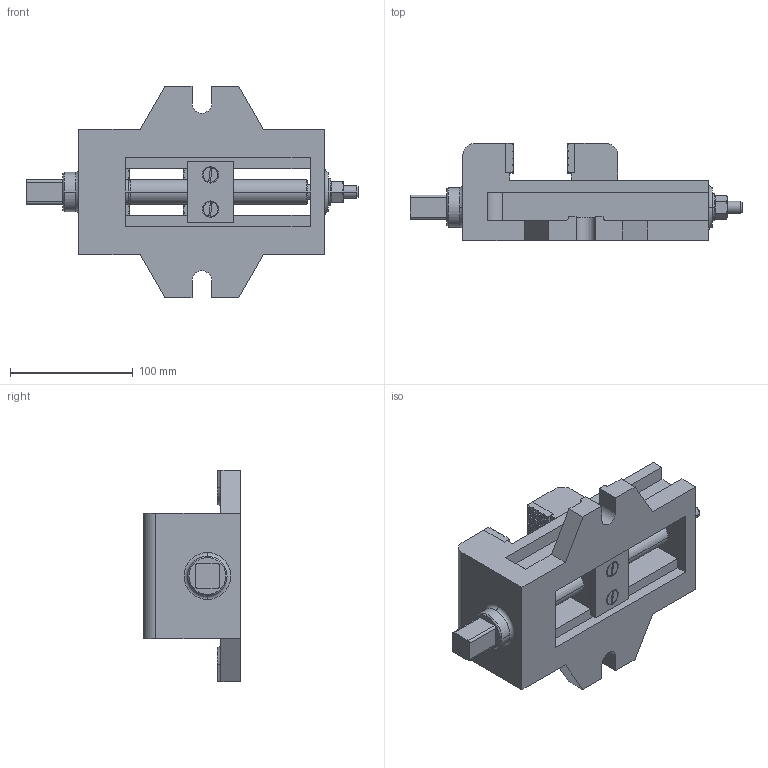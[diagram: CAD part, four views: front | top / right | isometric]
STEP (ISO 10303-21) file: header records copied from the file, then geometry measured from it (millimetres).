
FILE_DESCRIPTION((''),'2;1');
FILE_NAME('MACHINE-ASM_ASM','2026-07-01T23:53:18',('lenovo'),(''),'CREO PARAMETRIC BY PTC INC, 2021284','CREO PARAMETRIC BY PTC INC, 2021284','');
FILE_SCHEMA(('CONFIG_CONTROL_DESIGN'));
Length unit declared in the file: millimetre
Products named in the file (9): MACHINE-VICE-BASE; MACHINE-VICE-JAW-GRIP; MACHINE-VICE-SCREW; MACHINE-VICE-MOVABLE-JAW; MACHINE-VICE-LOCK-PLATE; MACHINE-VICE-SCREW-ROD; MACHINE-VICE-WASHER; MACHINE-VICE-NUT; MACHINE-ASM_ASM
Assembly tree (14 placements, depth 2):
  MACHINE-ASM_ASM
    MACHINE-VICE-BASE
    MACHINE-VICE-JAW-GRIP  x2
    MACHINE-VICE-SCREW  x6
    MACHINE-VICE-MOVABLE-JAW
    MACHINE-VICE-LOCK-PLATE
    MACHINE-VICE-SCREW-ROD
    MACHINE-VICE-WASHER
    MACHINE-VICE-NUT
Bounding box: 270 x 79 x 172 mm (x, y, z)
Volume: 1058486.3 mm3; surface area: 191711.3 mm2
Topology: 14 solids, 30 shells, 2143 faces, 4662 edges, 2560 vertices
Faces by surface type: plane 1951, cylinder 108, cone 78, torus 6
Entity records: 30376 total; most frequent: CARTESIAN_POINT 5432, DIRECTION 5038, ORIENTED_EDGE 4976, EDGE_CURVE 2510, VECTOR 2170, LINE 2170, AXIS2_PLACEMENT_3D 1434, VERTEX_POINT 1403
